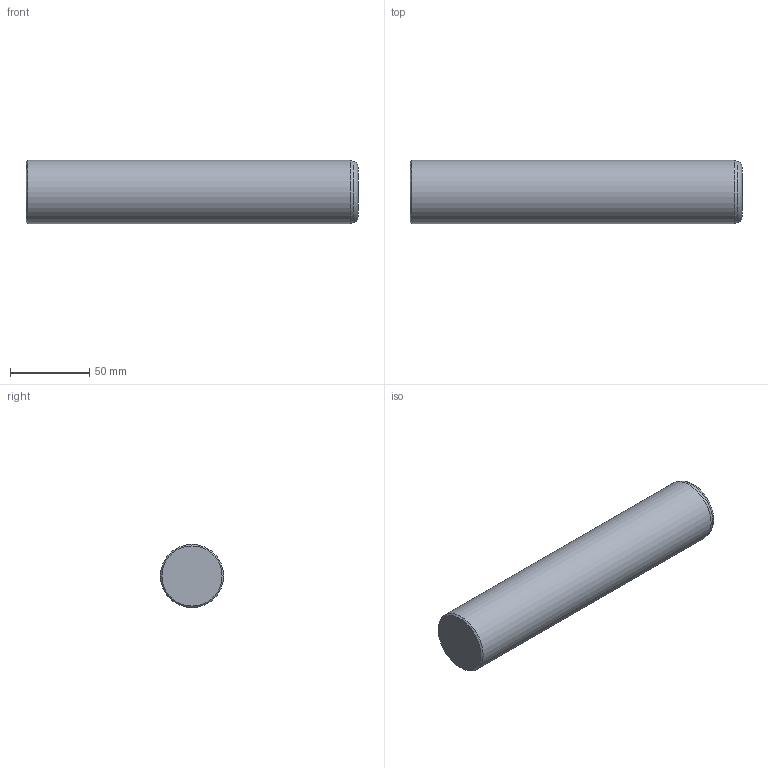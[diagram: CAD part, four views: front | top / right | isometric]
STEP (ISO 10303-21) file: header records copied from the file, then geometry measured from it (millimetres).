
FILE_DESCRIPTION(/* description */ ('Impex Ready, www.impex-ready.pl'),/* implementation_level */ '2;1');
FILE_NAME(/* name */ 'C:\Users\VIKKY\Nextcloud\SM\projekt 10 - części na stronę internetową\Pliki_3D_new\256 CIS Słup\256 CIS_STEP\CIS40210.ipt.step',/* time_stamp */ '2021-12-20T12:45:32+01:00',/* author */ ('SM'),/* organization */ (''),/* preprocessor_version */ 'ST-DEVELOPER v18.1',/* originating_system */ 'Autodesk Inventor 2021',/* authorisation */ '');
FILE_SCHEMA (('AUTOMOTIVE_DESIGN { 1 0 10303 214 3 1 1 }'));
Length unit declared in the file: millimetre
Products named in the file (1): CIS40210
Bounding box: 210 x 40 x 40 mm (x, y, z)
Volume: 263183.2 mm3; surface area: 28548.1 mm2
Topology: 1 solids, 1 shells, 6 faces, 12 edges, 8 vertices
Faces by surface type: cone 2, plane 2, torus 1, cylinder 1
Full cylindrical faces by diameter (mm): 40 x1
Entity records: 239 total; most frequent: DIRECTION 35, CARTESIAN_POINT 27, ORIENTED_EDGE 24, AXIS2_PLACEMENT_3D 16, EDGE_CURVE 12, CIRCLE 9, VERTEX_POINT 8, STYLED_ITEM 7
